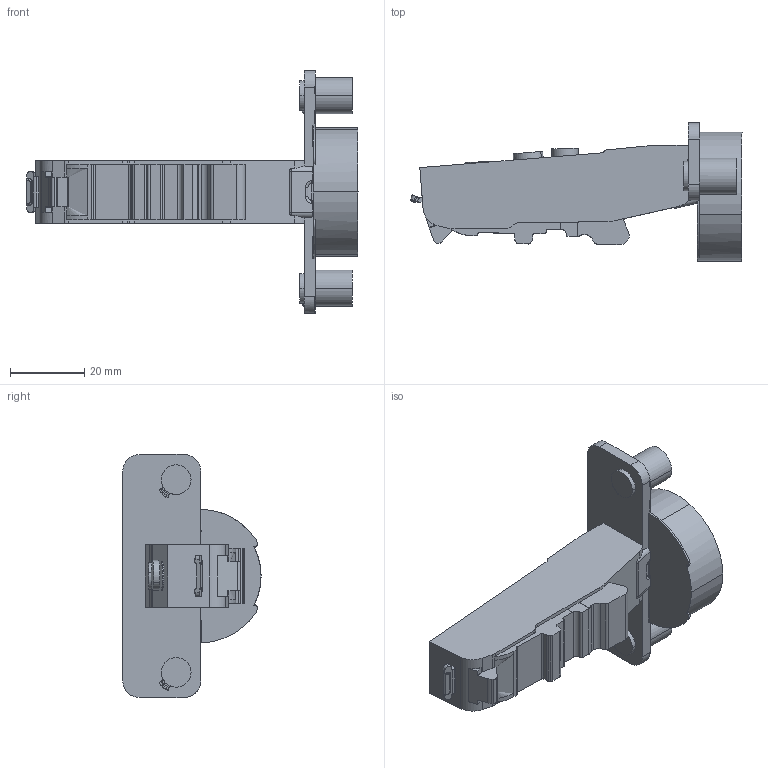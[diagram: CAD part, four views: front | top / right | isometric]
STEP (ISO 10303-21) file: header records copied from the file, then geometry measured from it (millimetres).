
FILE_DESCRIPTION (( 'STEP AP203' ), '1' );
FILE_NAME ('C81B877T0FAB DTC 3D CLOSE.STEP', '2024-07-24T05:25:13', ( '微软用户' ), ( '微软中国' ), 'SwSTEP 2.0', 'SolidWorks 2021', '' );
FILE_SCHEMA (( 'CONFIG_CONTROL_DESIGN' ));
Length unit declared in the file: millimetre
Products named in the file (1): C81B877T0FAB DTC 3D CLOSE
Bounding box: 89.61 x 37.33 x 65.6 mm (x, y, z)
Volume: 41224.8 mm3; surface area: 11911.5 mm2
Topology: 1 solids, 1 shells, 341 faces, 941 edges, 611 vertices
Faces by surface type: cylinder 147, plane 127, torus 34, bspline 23, cone 6, sphere 4
Entity records: 11872 total; most frequent: CARTESIAN_POINT 3284, ORIENTED_EDGE 1882, DIRECTION 1715, EDGE_CURVE 941, AXIS2_PLACEMENT_3D 629, VERTEX_POINT 611, LINE 457, VECTOR 457
